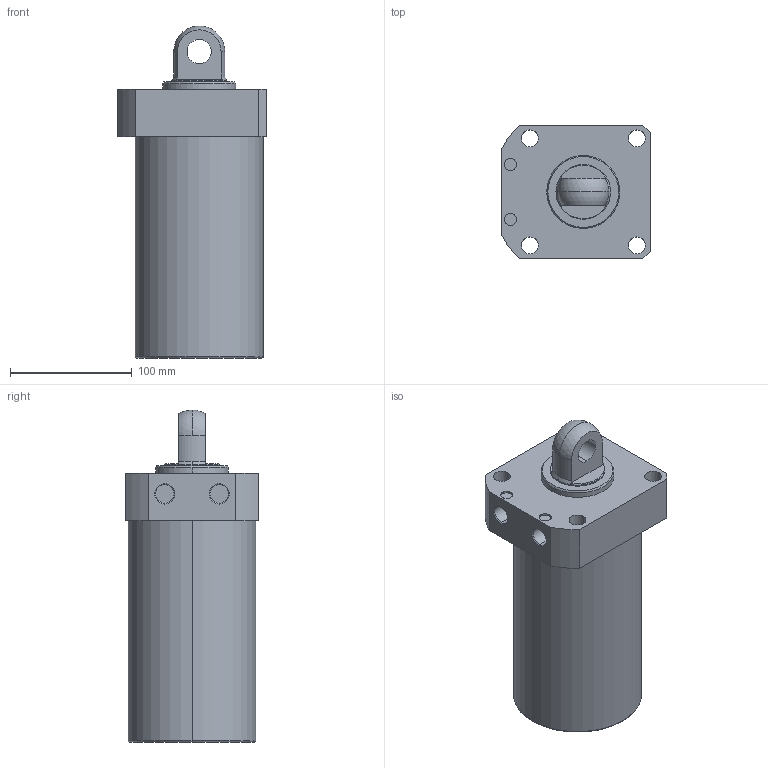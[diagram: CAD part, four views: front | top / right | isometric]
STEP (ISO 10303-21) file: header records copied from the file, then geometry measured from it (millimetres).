
FILE_DESCRIPTION (( 'STEP AP203' ), '1' );
FILE_NAME ('CLLR-105CP-135.STEP', '2019-12-18T08:10:45', ( '' ), ( '' ), 'SwSTEP 2.0', 'SolidWorks 2015', '' );
FILE_SCHEMA (( 'CONFIG_CONTROL_DESIGN' ));
Length unit declared in the file: millimetre
Products named in the file (1): CLLR-105CP-135
Bounding box: 122 x 110 x 273 mm (x, y, z)
Volume: 2102043.9 mm3; surface area: 117562.7 mm2
Topology: 1 solids, 1 shells, 59 faces, 139 edges, 89 vertices
Faces by surface type: cylinder 29, plane 18, cone 8, torus 2, sphere 2
Entity records: 1822 total; most frequent: DIRECTION 331, CARTESIAN_POINT 300, ORIENTED_EDGE 278, EDGE_CURVE 139, AXIS2_PLACEMENT_3D 136, VERTEX_POINT 89, CIRCLE 76, EDGE_LOOP 76
